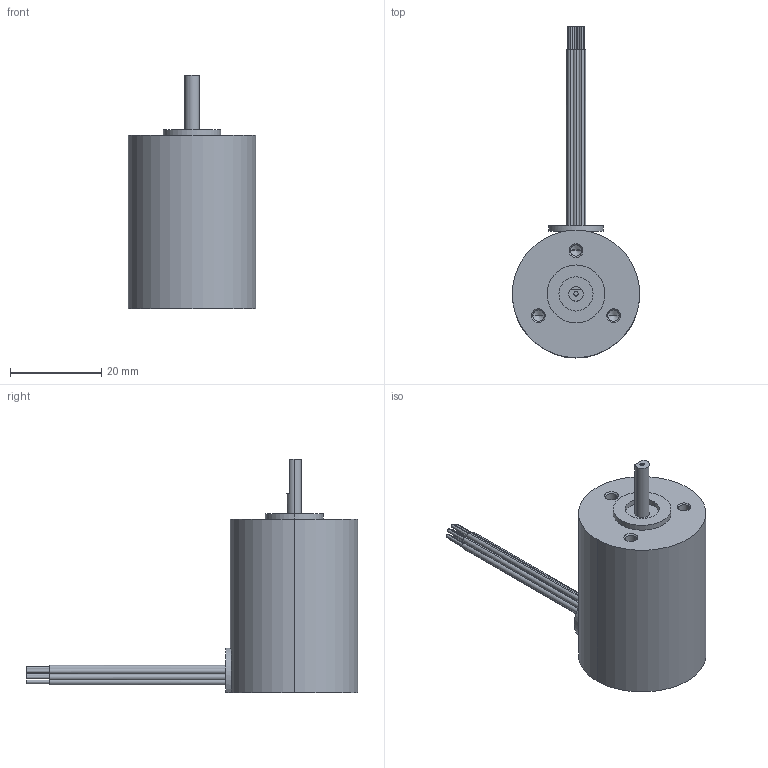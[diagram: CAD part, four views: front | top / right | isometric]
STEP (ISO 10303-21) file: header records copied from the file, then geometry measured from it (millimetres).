
FILE_DESCRIPTION (( 'STEP AP214' ), '1' );
FILE_NAME ('BLWR111S,BLWR112S Series.STEP', '2009-05-18T21:35:36', ( 'Tim Raines' ), ( 'Anaheim Automation' ), 'SwSTEP 2.0', 'SolidWorks 2009', '' );
FILE_SCHEMA (( 'AUTOMOTIVE_DESIGN' ));
Length unit declared in the file: millimetre
Products named in the file (1): BLWR111S,BLWR112S Series
Bounding box: 28 x 72.88 x 51.3 mm (x, y, z)
Volume: 23887.8 mm3; surface area: 6703.4 mm2
Topology: 1 solids, 1 shells, 121 faces, 264 edges, 162 vertices
Faces by surface type: cylinder 65, plane 32, cone 24
Entity records: 4798 total; most frequent: CARTESIAN_POINT 773, DIRECTION 605, ORIENTED_EDGE 504, AXIS2_PLACEMENT_3D 252, EDGE_CURVE 252, VERTEX_POINT 162, EDGE_LOOP 154, CIRCLE 130
